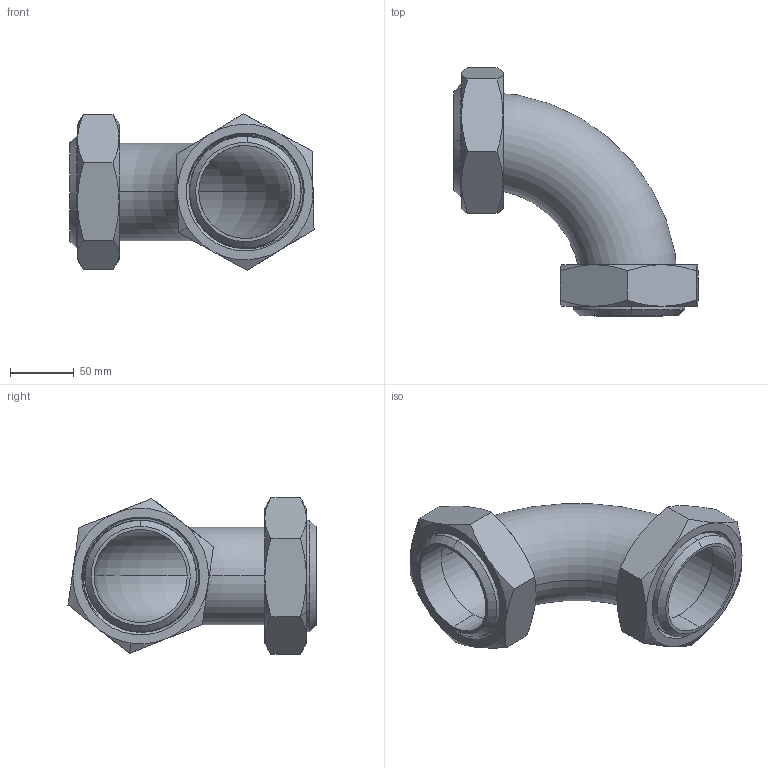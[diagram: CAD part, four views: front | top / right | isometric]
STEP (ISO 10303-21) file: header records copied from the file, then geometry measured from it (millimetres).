
FILE_DESCRIPTION (( 'STEP AP214' ), '1' );
FILE_NAME ('2E 3.0.STEP', '2025-08-26T20:09:34', ( '' ), ( '' ), 'SwSTEP 2.0', 'SolidWorks 2023', '' );
FILE_SCHEMA (( 'AUTOMOTIVE_DESIGN' ));
Length unit declared in the file: millimetre
Products named in the file (4): 14PR 3.0 REV2; 2E 3.0; 13H3.0_44575K115; 2WCL3.0
Assembly tree (5 placements, depth 2):
  2E 3.0
    13H3.0_44575K115  x2
    2WCL3.0
    14PR 3.0 REV2  x2
Bounding box: 191.28 x 194.39 x 122.77 mm (x, y, z)
Volume: 364081 mm3; surface area: 183145.4 mm2
Topology: 5 solids, 5 shells, 152 faces, 376 edges, 240 vertices
Faces by surface type: cylinder 78, cone 34, plane 32, bspline 4, torus 4
Entity records: 3513 total; most frequent: CARTESIAN_POINT 1678, ORIENTED_EDGE 388, DIRECTION 340, EDGE_CURVE 194, AXIS2_PLACEMENT_3D 144, VERTEX_POINT 124, EDGE_LOOP 88, ADVANCED_FACE 79
